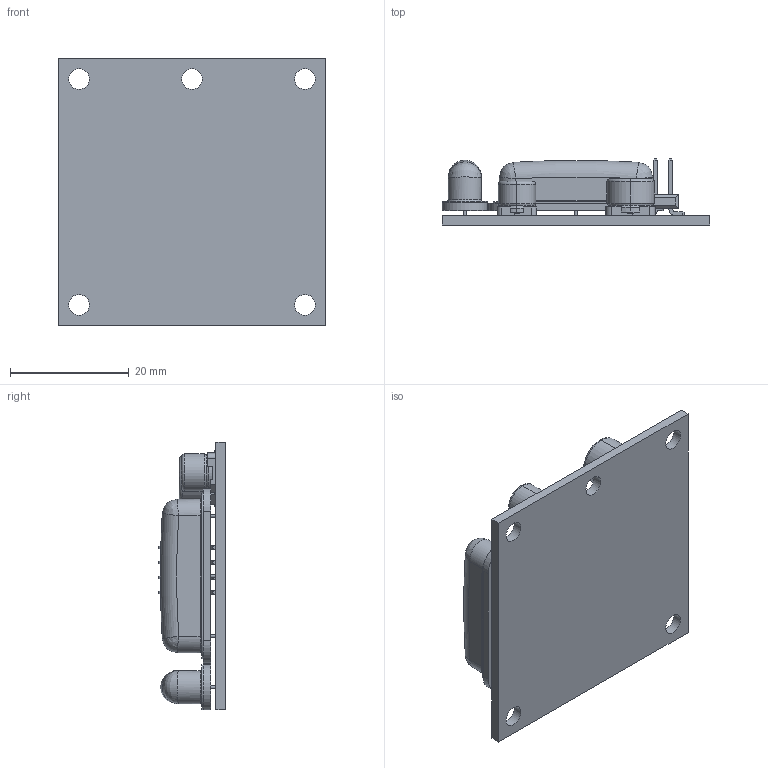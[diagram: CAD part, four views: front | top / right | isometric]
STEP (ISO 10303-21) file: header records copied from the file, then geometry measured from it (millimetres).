
FILE_DESCRIPTION (( 'STEP AP214' ), '1' );
FILE_NAME ('F203-00A-212-00.STEP', '2023-02-21T13:48:04', ( '' ), ( '' ), 'SwSTEP 2.0', 'SolidWorks 2022', '' );
FILE_SCHEMA (( 'AUTOMOTIVE_DESIGN' ));
Length unit declared in the file: millimetre
Products named in the file (15): _W__SIZE CODE E-001^PCE3944CT-ND_6200-012-001; F203-00A-212-00; 6200-012-001; _W__SIZE CODE D-002^PCE3880CT-ND_6200-012-001; _W__SIZE CODE E-003^PCE3944CT-ND_6200-012-001; PCE3880CT-ND^6200-012-001; PCE3944CT-ND^6200-012-001; 7305-088_80 thou leads for STEP; _W__SIZE CODE E-002^PCE3944CT-ND_6200-012-001; _W__SIZE CODE D-003^PCE3880CT-ND_6200-012-001; 015910080^6200-012-001; 0703-0712-99; 5203-077_COMSOL; _W__SIZE CODE D-001^PCE3880CT-ND_6200-012-001
Assembly tree (17 placements, depth 4):
  F203-00A-212-00
    6200-012-001
      6200-012-001
      015910080^6200-012-001
      PCE3880CT-ND^6200-012-001
        _W__SIZE CODE D-001^PCE3880CT-ND_6200-012-001
        _W__SIZE CODE D-002^PCE3880CT-ND_6200-012-001
        _W__SIZE CODE D-003^PCE3880CT-ND_6200-012-001  x2
      PCE3944CT-ND^6200-012-001
        _W__SIZE CODE E-001^PCE3944CT-ND_6200-012-001
        _W__SIZE CODE E-002^PCE3944CT-ND_6200-012-001
        _W__SIZE CODE E-003^PCE3944CT-ND_6200-012-001  x2
    0703-0712-99  x2
      7305-088_80 thou leads for STEP
      5203-077_COMSOL
Bounding box: 45.21 x 11.25 x 45.21 mm (x, y, z)
Volume: 4833.5 mm3; surface area: 8822.3 mm2
Topology: 20 solids, 20 shells, 545 faces, 1263 edges, 758 vertices
Faces by surface type: plane 380, cylinder 111, torus 28, cone 12, bspline 8, sphere 6
Full cylindrical faces by diameter (mm): 0.508 x10, 0.533 x2, 1.778 x4, 3.5 x5
Entity records: 14836 total; most frequent: CARTESIAN_POINT 2784, DIRECTION 2136, ORIENTED_EDGE 2014, EDGE_CURVE 1007, LINE 790, VECTOR 790, AXIS2_PLACEMENT_3D 673, VERTEX_POINT 625
